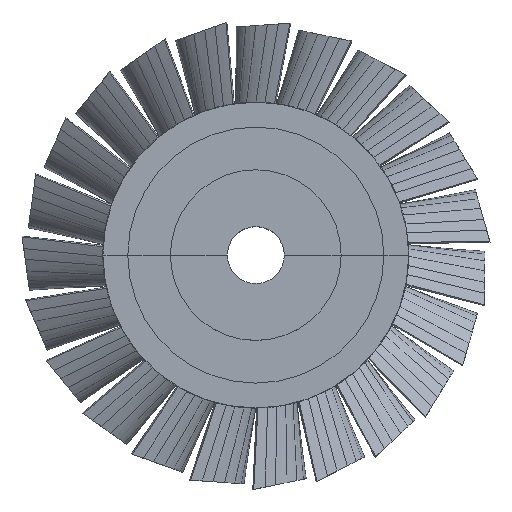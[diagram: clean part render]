
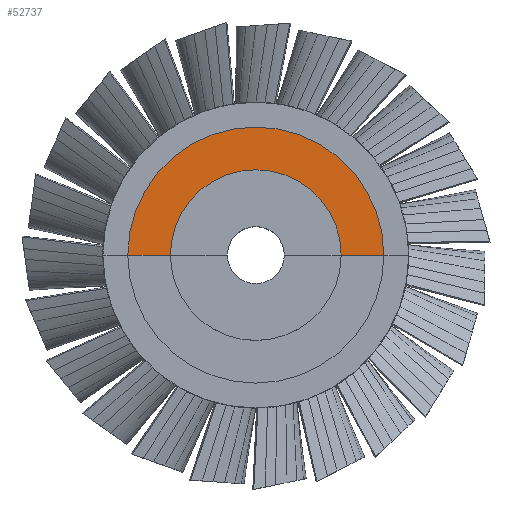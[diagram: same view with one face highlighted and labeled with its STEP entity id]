
A CAD part, top view. The second image highlights one B-rep face of the part: STEP entity #52737.
In plain terms, the highlighted planar face has unit normal (0, 0, 1).
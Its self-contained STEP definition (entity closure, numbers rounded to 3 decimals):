
#17=CARTESIAN_POINT('',(18.0,0.0,170.0));
#18=CARTESIAN_POINT('',(-18.0,0.0,170.0));
#19=CARTESIAN_POINT('',(12.0,0.0,170.0));
#20=CARTESIAN_POINT('',(-12.0,0.0,170.0));
#22596=CARTESIAN_POINT('',(0.0,0.0,170.0));
#22597=DIRECTION('',(0.0,0.0,1.0));
#22598=DIRECTION('',(1.0,0.0,0.0));
#22599=AXIS2_PLACEMENT_3D('',#22596,#22597,#22598);
#22600=CIRCLE('',#22599,18.0);
#22601=TRIMMED_CURVE('',#22600,(#17),(#18),.T.,.CARTESIAN.);
#22611=DIRECTION('',(1.0,0.0,0.0));
#22612=VECTOR('',#22611,1.0);
#22613=LINE('',#18,#22612);
#22614=CARTESIAN_POINT('',(0.0,0.0,170.0));
#22615=DIRECTION('',(0.0,0.0,1.0));
#22616=DIRECTION('',(1.0,0.0,0.0));
#22617=AXIS2_PLACEMENT_3D('',#22614,#22615,#22616);
#22618=CIRCLE('',#22617,12.0);
#22619=TRIMMED_CURVE('',#22618,(#19),(#20),.T.,.CARTESIAN.);
#22620=DIRECTION('',(-1.0,0.0,0.0));
#22621=VECTOR('',#22620,1.0);
#22622=LINE('',#17,#22621);
#26232=CARTESIAN_POINT('',(0.0,0.0,170.0));
#26233=DIRECTION('',(0.0,0.0,1.0));
#26234=DIRECTION('',(1.0,0.0,0.0));
#26235=AXIS2_PLACEMENT_3D('',#26232,#26233,#26234);
#26236=PLANE('',#26235);
#33832=VERTEX_POINT('',#17);
#33833=VERTEX_POINT('',#18);
#33834=VERTEX_POINT('',#19);
#33835=VERTEX_POINT('',#20);
#41639=EDGE_CURVE('',#33832,#33833,#22601,.T.);
#41642=EDGE_CURVE('',#33833,#33835,#22613,.T.);
#41643=EDGE_CURVE('',#33834,#33835,#22619,.T.);
#41644=EDGE_CURVE('',#33832,#33834,#22622,.T.);
#46264=ORIENTED_EDGE('',*,*,#41639,.T.);
#46265=ORIENTED_EDGE('',*,*,#41642,.T.);
#46266=ORIENTED_EDGE('',*,*,#41643,.F.);
#46267=ORIENTED_EDGE('',*,*,#41644,.F.);
#51746=EDGE_LOOP('',(#46264,#46265,#46266,#46267));
#52252=FACE_OUTER_BOUND('',#51746,.T.);
#52737=ADVANCED_FACE('',(#52252),#26236,.T.);
